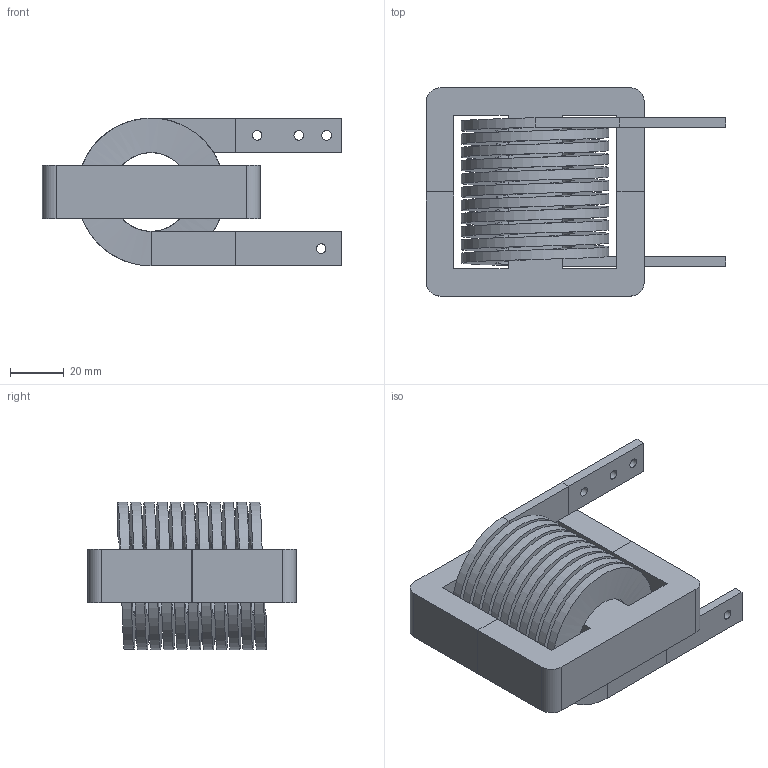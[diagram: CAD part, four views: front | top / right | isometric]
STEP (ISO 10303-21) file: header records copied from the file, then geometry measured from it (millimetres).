
FILE_DESCRIPTION (( 'STEP AP214' ), '1' );
FILE_NAME ('LCEK38A21-120M-450AV REV. A.STEP', '2020-03-02T19:56:29', ( '' ), ( '' ), 'SwSTEP 2.0', 'SolidWorks 2015', '' );
FILE_SCHEMA (( 'AUTOMOTIVE_DESIGN' ));
Length unit declared in the file: inch
Products named in the file (6): LCEK38A21-120M-450AV core; LCEK38A21-120M-450AV coil; LCEK38A21-120M-450AV REV. A
Assembly tree (3 placements, depth 2):
  LCEK38A21-120M-450AV coil
  LCEK38A21-120M-450AV REV. A
    LCEK38A21-120M-450AV core  x2
    LCEK38A21-120M-450AV coil
  LCEK38A21-120M-450AV core
  LCEK38A21-120M-450AV core
Bounding box: 111.66 x 77.72 x 55.17 mm (x, y, z)
Volume: 148684.1 mm3; surface area: 72397.1 mm2
Topology: 3 solids, 3 shells, 60 faces, 149 edges, 97 vertices
Faces by surface type: plane 48, cylinder 8, bspline 4
Full cylindrical faces by diameter (mm): 3.556 x4
Entity records: 4635 total; most frequent: CARTESIAN_POINT 3261, ORIENTED_EDGE 204, DIRECTION 200, EDGE_CURVE 102, LINE 82, VECTOR 82, VERTEX_POINT 68, AXIS2_PLACEMENT_3D 59
